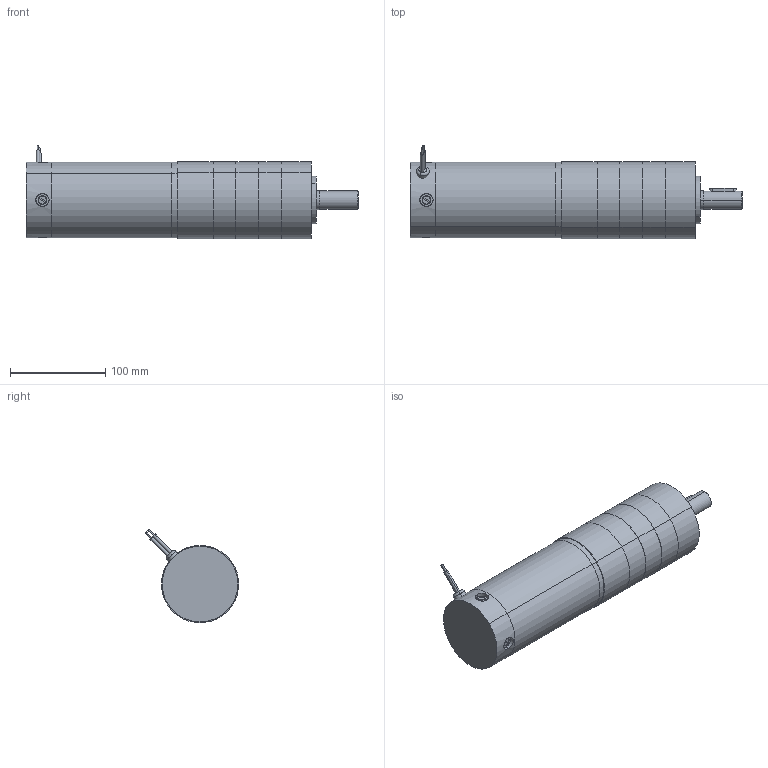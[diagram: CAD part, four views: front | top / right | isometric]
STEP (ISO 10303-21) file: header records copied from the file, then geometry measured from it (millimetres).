
FILE_DESCRIPTION (( 'STEP AP203' ), '1' );
FILE_NAME ('d33655bgp3.step', '2018-12-07T19:34:22', ( '' ), ( '' ), 'SwSTEP 2.0', 'SolidWorks 2017', '' );
FILE_SCHEMA (( 'CONFIG_CONTROL_DESIGN' ));
Length unit declared in the file: inch
Products named in the file (1): d33655bgp3
Bounding box: 347.85 x 97.55 x 97.55 mm (x, y, z)
Volume: 1538290.8 mm3; surface area: 177374.8 mm2
Topology: 19 solids, 19 shells, 368 faces, 776 edges, 482 vertices
Faces by surface type: cylinder 155, plane 150, cone 53, torus 6, sphere 4
Entity records: 10304 total; most frequent: CARTESIAN_POINT 2141, DIRECTION 1831, ORIENTED_EDGE 1520, EDGE_CURVE 760, AXIS2_PLACEMENT_3D 732, VERTEX_POINT 482, EDGE_LOOP 436, FACE_OUTER_BOUND 368
